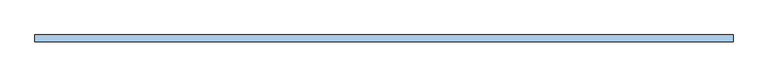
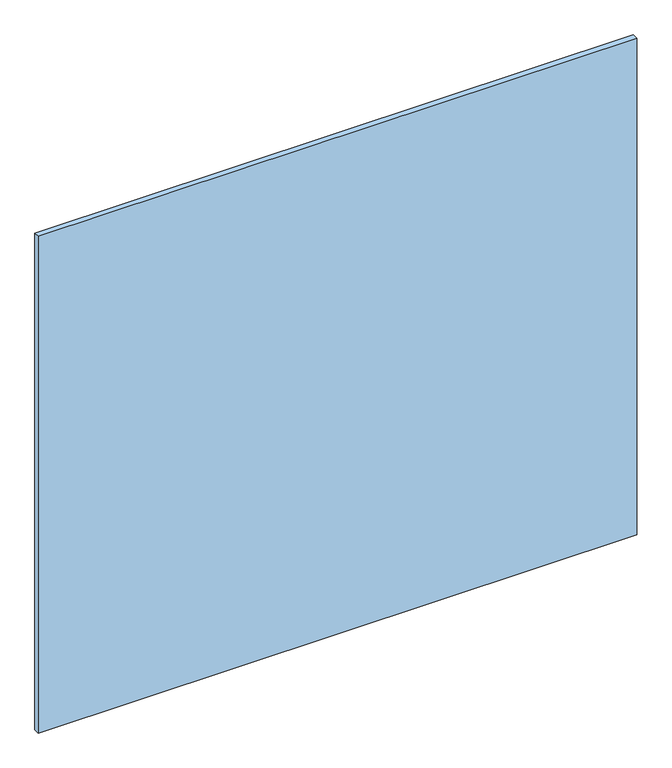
"""IFC4 building model written with IfcOpenShell, lengths in millimetres: window geometry, espejo biselado sin marco : ESP-12-espejo biselado 120 x 101."""

from ifc_helpers import new_model, si_unit, origin, origin_with_axes, place, context, project, spatial, polyline, outline, extrude, source, transform, mapped, element, save


def window_173d953a(model_context):
    return source(origin(), model_context, "Body", "SweptSolid", [
        extrude(outline(polyline([(-570.0, 79.0), (-570.0, 90.0), (570.0, 90.0), (570.0, 79.0), (-570.0, 79.0)])), origin_with_axes(), (0.0, 0.0, 1.0), 1000.0),
    ])


if __name__ == "__main__":
    model = new_model("IFC4")
    model_context = context("Model", 3, world=origin())
    ifc_project = project(units=[si_unit("LENGTHUNIT", "METRE", prefix="MILLI")], contexts=[model_context])
    site = spatial("IfcSite", under=ifc_project)
    building = spatial("IfcBuilding", under=site)
    placement = place(None, origin())
    window_shape = window_173d953a(model_context)
    element("IfcWindow", 1, ObjectType="espejo biselado sin marco : ESP-12-espejo biselado 120 x 101", at=placement, inside=building, context=model_context, shape_type="MappedRepresentation", body=[
        mapped(window_shape, transform((0.0, 0.0, 0.0), x_axis=(1.0, 0.0, 0.0), y_axis=(0.0, 1.0, 0.0), z_axis=(0.0, 0.0, 1.0))),
    ])
    save(model, "model.ifc")
